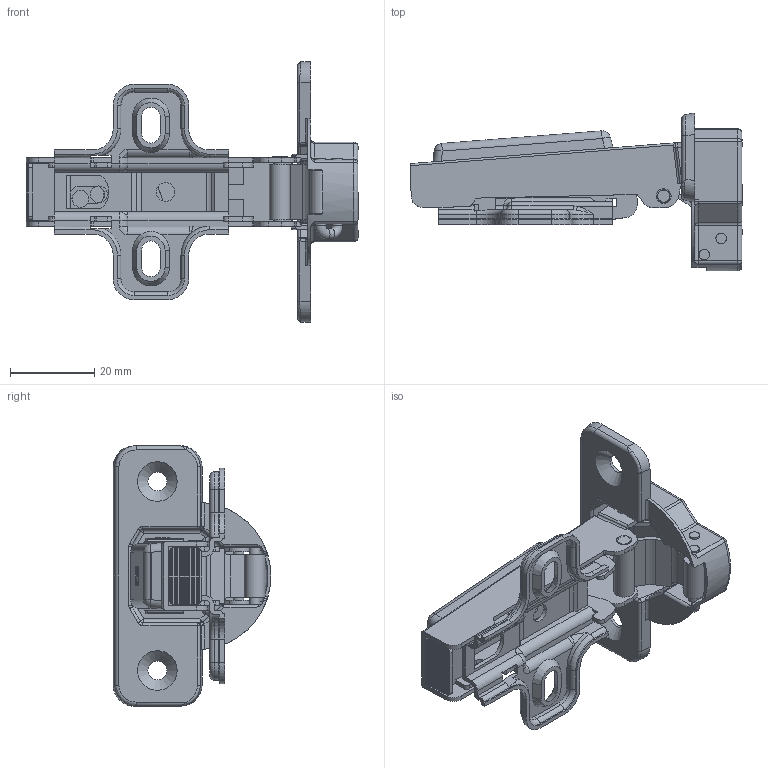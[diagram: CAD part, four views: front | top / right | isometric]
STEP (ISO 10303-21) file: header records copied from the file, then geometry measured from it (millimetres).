
FILE_DESCRIPTION(/* description */ (''),/* implementation_level */ '2;1');
FILE_NAME(/* name */ 'W:\R&D\pub\Katalog techniczny\bryły 3D\ZP-COCA450-BE.stp',/* time_stamp */ '2016-09-14T09:52:29+02:00',/* author */ ('tomaszw'),/* organization */ (''),/* preprocessor_version */ 'ST-DEVELOPER v16.1',/* originating_system */ 'Autodesk Inventor 2016',/* authorisation */ '');
FILE_SCHEMA (('AUTOMOTIVE_DESIGN { 1 0 10303 214 3 1 1 }'));
Length unit declared in the file: millimetre
Products named in the file (14): ZP-COCA450_1; ZP-COCA450_2; ZP-COCA450_3; ZP-COCA450_4; ZP-COCA450_P; ZP-COCA450_5; ZP-COCA450_6; ZP-COCA450_pin1; ZP-COCA450_pin2; ZP-COCA450_pinx2; WR; WM; ZP-PO_pok; ZP-COCA(MU)450(2)-BE(ZE)
Assembly tree (13 placements, depth 2):
  ZP-COCA(MU)450(2)-BE(ZE)
    ZP-COCA450_1
    ZP-COCA450_2
    ZP-COCA450_3
    ZP-COCA450_4
    ZP-COCA450_P
    ZP-COCA450_5
    ZP-COCA450_6
    ZP-COCA450_pin1
    ZP-COCA450_pin2
    ZP-COCA450_pinx2
    WR
    WM
    ZP-PO_pok
Bounding box: 79.04 x 37.53 x 62 mm (x, y, z)
Volume: 10512.5 mm3; surface area: 24080.8 mm2
Topology: 13 solids, 13 shells, 1087 faces, 2867 edges, 1788 vertices
Faces by surface type: cylinder 435, plane 421, bspline 97, torus 84, sphere 30, cone 20
Full cylindrical faces by diameter (mm): 2.5 x9, 2.9 x2, 3 x6, 3.5 x2, 4 x2, 4.4 x1, 4.5 x2, 4.917 x1, 5.9 x2, 6 x1, 8 x2
Entity records: 37578 total; most frequent: CARTESIAN_POINT 9768, DIRECTION 5612, ORIENTED_EDGE 5598, EDGE_CURVE 2799, AXIS2_PLACEMENT_3D 2051, VERTEX_POINT 1776, LINE 1510, VECTOR 1510
